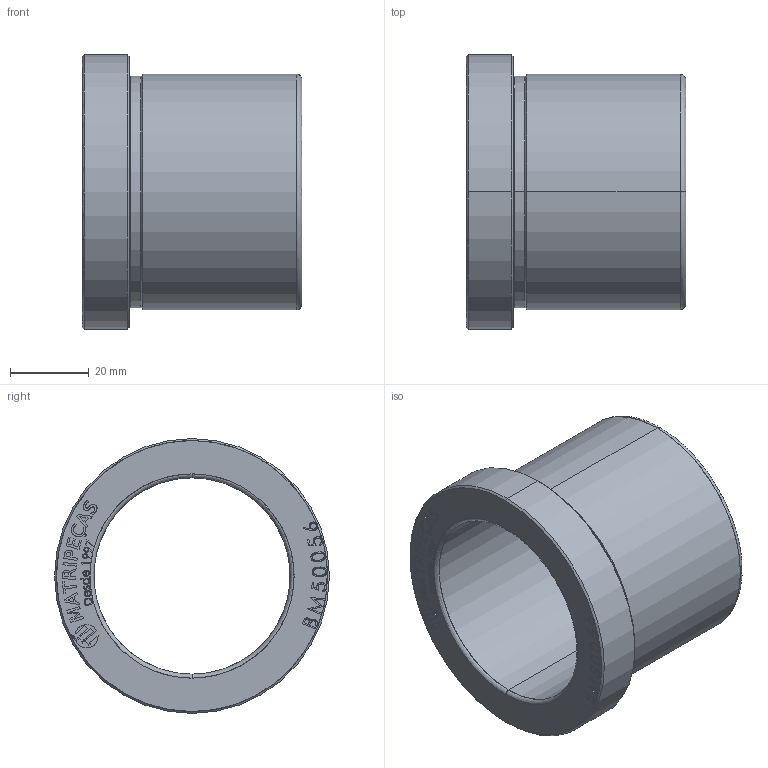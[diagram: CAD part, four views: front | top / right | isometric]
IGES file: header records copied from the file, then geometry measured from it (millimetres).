
Start section: SolidWorks IGES file using analytic representation for surfaces
Global section: file name: C:\Users\evers\OneDrive\Área de Trabalho\Trivector\MATRIPEÇAS\BM - BUCHA PRINCIPAL TIPO E31\BM50056.IGS; native system: SolidWorks 2024; preprocessor: SolidWorks 2024; author: evers; date: 260903.090934; units: millimetre
Bounding box: 56 x 70 x 70 mm (x, y, z)
Surface area: 23114.8 mm2 (no closed solid volume)
Topology: 0 solids, 0 shells, 409 faces, 5192 edges, 5192 vertices
Faces by surface type: bspline 381, revolution 28
